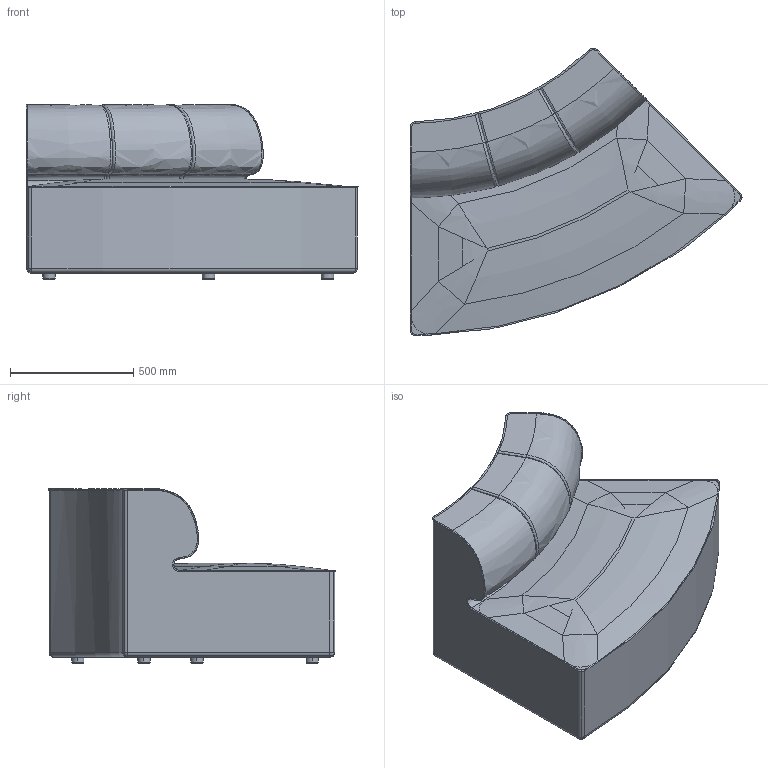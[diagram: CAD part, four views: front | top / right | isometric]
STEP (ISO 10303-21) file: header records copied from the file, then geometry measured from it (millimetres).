
FILE_DESCRIPTION (( 'STEP AP214' ), '1' );
FILE_NAME ('Eave Seamline Modular Sofa 86, Convex Open Module.STEP', '2024-07-03T13:18:56', ( '' ), ( '' ), 'SwSTEP 2.0', 'SolidWorks 2022', '' );
FILE_SCHEMA (( 'AUTOMOTIVE_DESIGN' ));
Length unit declared in the file: millimetre
Products named in the file (1): Eave Seamline Modular Sofa 86, Convex Open Module
Bounding box: 1344.66 x 1163.81 x 708 mm (x, y, z)
Volume: 442625775.6 mm3; surface area: 4295836.5 mm2
Topology: 5 solids, 5 shells, 133 faces, 322 edges, 193 vertices
Faces by surface type: cylinder 37, bspline 34, torus 27, plane 25, sphere 8, cone 2
Entity records: 10448 total; most frequent: CARTESIAN_POINT 7564, ORIENTED_EDGE 632, DIRECTION 518, EDGE_CURVE 316, AXIS2_PLACEMENT_3D 228, VERTEX_POINT 193, FACE_OUTER_BOUND 133, ADVANCED_FACE 133
